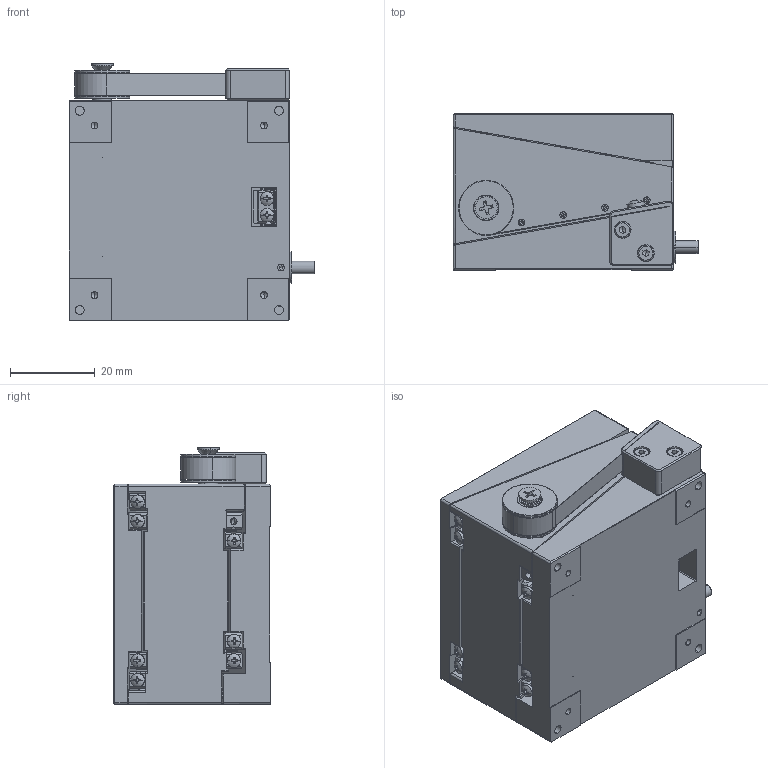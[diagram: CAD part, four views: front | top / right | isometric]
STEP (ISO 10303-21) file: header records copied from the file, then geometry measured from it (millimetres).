
FILE_DESCRIPTION (( 'STEP AP214' ), '1' );
FILE_NAME ('N55.Z10E 压电升降台(简化）.STEP', '2025-10-11T06:27:25', ( 'Sky123.Org' ), ( 'Sky123.Org' ), 'SwSTEP 2.0', 'SolidWorks 2016', '' );
FILE_SCHEMA (( 'AUTOMOTIVE_DESIGN' ));
Length unit declared in the file: millimetre
Products named in the file (1): N55.Z10E 压电升降台(简化）
Bounding box: 58 x 37 x 60.65 mm (x, y, z)
Volume: 86404.1 mm3; surface area: 50509.4 mm2
Topology: 176 solids, 176 shells, 3911 faces, 9441 edges, 5874 vertices
Faces by surface type: plane 2134, cylinder 1167, cone 458, torus 100, sphere 52
Entity records: 157690 total; most frequent: CARTESIAN_POINT 20793, DIRECTION 19912, ORIENTED_EDGE 18328, EDGE_CURVE 9164, AXIS2_PLACEMENT_3D 7310, VERTEX_POINT 5874, VECTOR 5292, LINE 5292
